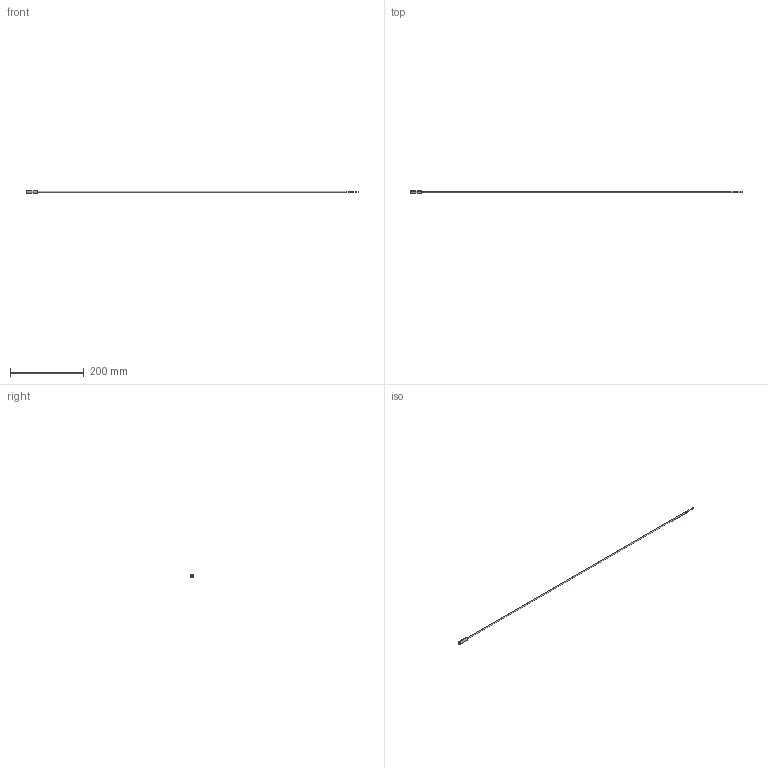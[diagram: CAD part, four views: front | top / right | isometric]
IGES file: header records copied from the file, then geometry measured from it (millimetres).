
Start section: SolidWorks IGES file using analytic representation for surfaces
Global section: file name: D:\Data\0 ASSEMBLY\641 90191 ABS CAP 8x30 standard D8______\SW_NTCACAPE3C90191a 3D\NTCACAPE3C90191.IGS; native system: SolidWorks 2014; preprocessor: SolidWorks 2014; author: rwacheux; date: 140908.120044; units: millimetre
Bounding box: 900 x 8 x 8 mm (x, y, z)
Surface area: 11615.8 mm2 (no closed solid volume)
Topology: 0 solids, 0 shells, 31 faces, 360 edges, 360 vertices
Faces by surface type: revolution 16, bspline 15
